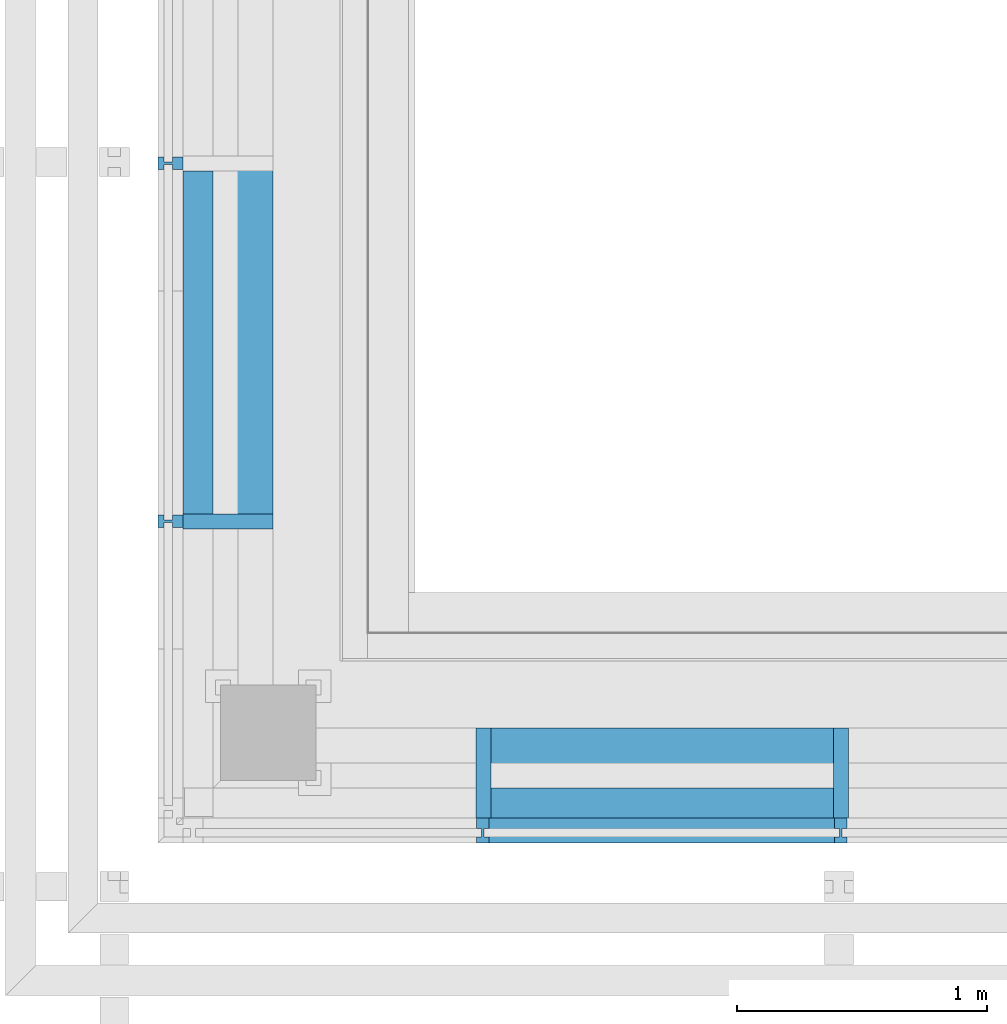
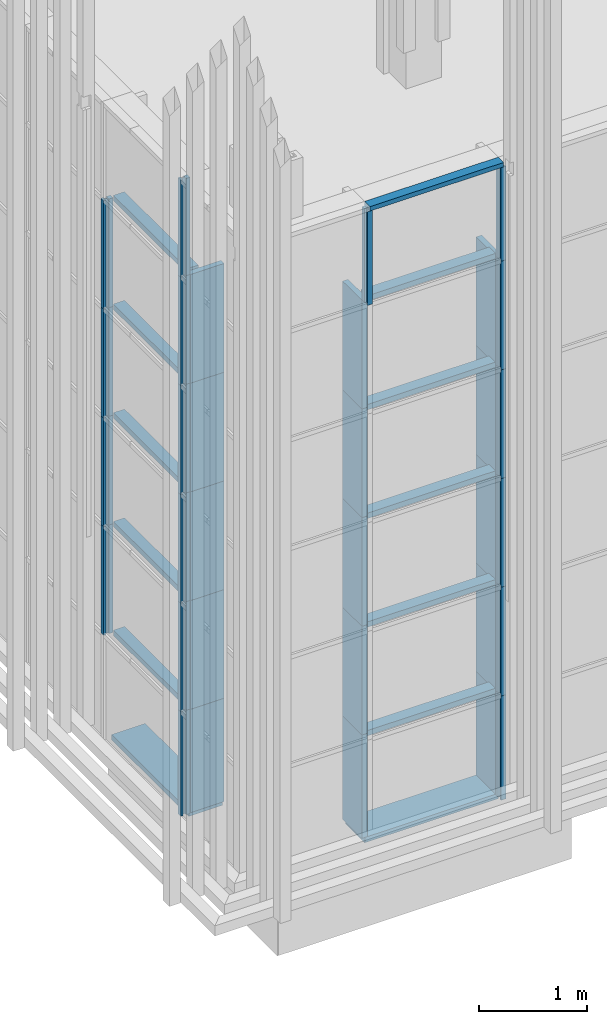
# One storey, part 3 of 260: 45 members, 2 elements without a shape of their own.
"""IFC2X3 building model written with IfcOpenShell, lengths in millimetres."""

from ifc_helpers import new_model, entity, si_unit, converted_unit, derived_unit, money_unit, direction, frame, origin_with_axes, place, context, subcontext, project, spatial, faceted_brep, source, transform, mapped, material, type_object, element, aggregate, save


model = new_model("IFC2X3")

# Units and contexts
model_context = context("Model", 3, precision=0.01, world=origin_with_axes(), true_north=direction((0.0, 1.0)))
body_context = subcontext(model_context, "Body", "Model", "MODEL_VIEW")
ifc_project = project(units=[si_unit("LENGTHUNIT", "METRE", prefix="MILLI"), si_unit("AREAUNIT", "SQUARE_METRE"), si_unit("VOLUMEUNIT", "CUBIC_METRE"), converted_unit("PLANEANGLEUNIT", "DEGREE", entity("IfcPlaneAngleMeasure", 0.0174532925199), si_unit("PLANEANGLEUNIT", "RADIAN"), dimensions=[0, 0, 0, 0, 0, 0, 0]), money_unit("EUR"), converted_unit("TIMEUNIT", "Year", entity("IfcTimeMeasure", 31556926.0), si_unit("TIMEUNIT", "SECOND"), dimensions=[0, 0, 1, 0, 0, 0, 0]), si_unit("MASSUNIT", "GRAM", prefix="KILO"), si_unit("THERMODYNAMICTEMPERATUREUNIT", "DEGREE_CELSIUS"), si_unit("LUMINOUSINTENSITYUNIT", "LUMEN"), si_unit("ENERGYUNIT", "JOULE", prefix="MEGA"), derived_unit("THERMALCONDUCTANCEUNIT", [(si_unit("POWERUNIT", "WATT"), 1), (si_unit("LENGTHUNIT", "METRE"), -1), (si_unit("THERMODYNAMICTEMPERATUREUNIT", "KELVIN"), -1)]), derived_unit("SPECIFICHEATCAPACITYUNIT", [(si_unit("ENERGYUNIT", "JOULE"), 1), (si_unit("MASSUNIT", "GRAM", prefix="KILO"), -1), (si_unit("THERMODYNAMICTEMPERATUREUNIT", "KELVIN"), -1)]), derived_unit("MASSDENSITYUNIT", [(si_unit("MASSUNIT", "GRAM", prefix="KILO"), 1), (si_unit("VOLUMEUNIT", "CUBIC_METRE"), -1)])], contexts=[model_context])

# Site, building, storey
site_placement = place(None, origin_with_axes())
site = spatial("IfcSite", under=ifc_project, at=site_placement, Name="Kolde pst 67a", CompositionType="ELEMENT")
building_placement = place(site_placement, origin_with_axes())
building = spatial("IfcBuilding", under=site, at=building_placement, Name="Riigigümnaasium", CompositionType="ELEMENT")
storey_placement = place(building_placement, origin_with_axes())
storey = spatial("IfcBuildingStorey", under=building, at=storey_placement, Name="1. korrus", CompositionType="ELEMENT", Elevation=0.0)

# Curtain wall, members
curtain_wall_type = type_object("IfcCurtainWallType", Name="Curtain Wall Type", PredefinedType="NOTDEFINED")
curtain_wall_1_placement = place(storey_placement, frame((47829.9854655, 8727.77020058, -0.000749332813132), z_axis=(0.0, 0.0, 1.0), x_axis=(1.0, 0.0, 0.0)))
curtain_wall_1 = element("IfcCurtainWall", 1, at=curtain_wall_1_placement, inside=storey, type_object=curtain_wall_type, Name="KLAASFASSAAD")
ifc_material_1 = material(Name="_METALL - alumiinium")
member_type_1 = type_object("IfcMemberType", Name="Mullion Frame 50 x 100", PredefinedType="MEMBER")
shared_shape_1 = source(origin_with_axes(), body_context, "Body", "Brep", [
    faceted_brep([(5.0, -16.5, 1230.00046362), (5.0, 16.5, 1230.00046362), (25.0, 16.5, 1230.00046362), (25.0, 40.0, 1230.00046362), (-25.0, 40.0, 1230.00046362), (-25.0, 16.5, 1230.00046362), (-5.0, 16.5, 1230.00046362), (-5.0, -16.5, 1230.00046362), (-25.0, -16.5, 1230.00046362), (-25.0, -60.0, 1230.00046362), (25.0, -60.0, 1230.00046362), (25.0, -16.5, 1230.00046362), (5.0, -16.5, 50.0), (5.0, 16.5, 50.0), (25.0, 16.5, 50.0), (25.0, 40.0, 50.0), (-25.0, 40.0, 50.0), (-25.0, 16.5, 50.0), (-5.0, 16.5, 50.0), (-5.0, -16.5, 50.0), (-25.0, -16.5, 50.0), (-25.0, -60.0, 50.0), (25.0, -60.0, 50.0), (25.0, -16.5, 50.0)], [[[0, 1, 2, 3, 4, 5, 6, 7, 8, 9, 10, 11]], [[0, 12, 13, 1]], [[1, 13, 14, 2]], [[14, 15, 3, 2]], [[4, 3, 15, 16]], [[17, 5, 4, 16]], [[5, 17, 18, 6]], [[7, 6, 18, 19]], [[8, 7, 19, 20]], [[8, 20, 21, 9]], [[10, 9, 21, 22]], [[11, 10, 22, 23]], [[11, 23, 12, 0]], [[13, 12, 23, 22, 21, 20, 19, 18, 17, 16, 15, 14]]]),
])
member_1_placement = place(curtain_wall_1_placement, frame((-21312.4150629, 15102.4731368, 0.000285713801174), z_axis=(0.0, 0.0, 1.0), x_axis=(0.999999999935, -1.14108152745e-05, 0.0)))
member_1 = element("IfcMember", 2, at=member_1_placement, type_object=member_type_1, material=ifc_material_1, Name="RF RAAM VERT-137", ObjectType="MEMBER", context=body_context, shape_type="MappedRepresentation", body=[
    mapped(shared_shape_1, transform((0.0, 0.0, 0.0), x_axis=(-1.0, 0.0, 0.0), y_axis=(0.0, -1.0, 0.0), z_axis=(0.0, 0.0, 1.0))),
])
member_2_placement = place(curtain_wall_1_placement, frame((-23999.9746346, 16347.2742109, 2.49889189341e-05), z_axis=(0.0, 8.29442620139e-09, 1.0), x_axis=(-7.64768489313e-06, -0.999999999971, 8.29442620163e-09)))
member_2 = element("IfcMember", 3, at=member_2_placement, type_object=member_type_1, material=ifc_material_1, Name="RF RAAM VERT-668", ObjectType="MEMBER", context=body_context, shape_type="MappedRepresentation", body=[
    mapped(shared_shape_1, transform((0.0, 0.0, 0.0), x_axis=(-1.0, 0.0, 8.29442620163e-09), y_axis=(0.0, -1.0, 0.0), z_axis=(8.29442620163e-09, 0.0, 1.0))),
])
shared_shape_2 = source(origin_with_axes(), body_context, "Body", "Brep", [
    faceted_brep([(5.0, -16.5, 1230.0), (5.0, 16.5, 1230.0), (25.0, 16.5, 1230.0), (25.0, 40.0, 1230.0), (-25.0, 40.0, 1230.0), (-25.0, 16.5, 1230.0), (-5.0, 16.5, 1230.0), (-5.0, -16.5, 1230.0), (-25.0, -16.5, 1230.0), (-25.0, -60.0, 1230.0), (25.0, -60.0, 1230.0), (25.0, -16.5, 1230.0), (5.0, -16.5, 0.0), (5.0, 16.5, 0.0), (25.0, 16.5, 0.0), (25.0, 40.0, 0.0), (-25.0, 40.0, 0.0), (-25.0, 16.5, 0.0), (-5.0, 16.5, 0.0), (-5.0, -16.5, 0.0), (-25.0, -16.5, 0.0), (-25.0, -60.0, 0.0), (25.0, -60.0, 0.0), (25.0, -16.5, 0.0)], [[[0, 1, 2, 3, 4, 5, 6, 7, 8, 9, 10, 11]], [[0, 12, 13, 1]], [[1, 13, 14, 2]], [[14, 15, 3, 2]], [[3, 15, 16, 4]], [[17, 5, 4, 16]], [[5, 17, 18, 6]], [[7, 6, 18, 19]], [[8, 7, 19, 20]], [[8, 20, 21, 9]], [[9, 21, 22, 10]], [[11, 10, 22, 23]], [[11, 23, 12, 0]], [[13, 12, 23, 22, 21, 20, 19, 18, 17, 16, 15, 14]]]),
])
member_3_placement = place(curtain_wall_1_placement, frame((-21312.4150629, 15102.4731368, 1230.00074933), z_axis=(0.0, 0.0, 1.0), x_axis=(0.999999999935, -1.14108152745e-05, 0.0)))
member_3 = element("IfcMember", 4, at=member_3_placement, type_object=member_type_1, material=ifc_material_1, Name="RF RAAM VERT-138", ObjectType="MEMBER", context=body_context, shape_type="MappedRepresentation", body=[
    mapped(shared_shape_2, transform((0.0, 0.0, 0.0), x_axis=(-1.0, 0.0, 0.0), y_axis=(0.0, -1.0, 0.0), z_axis=(0.0, 0.0, 1.0))),
])
member_4_placement = place(curtain_wall_1_placement, frame((-21312.4150629, 15102.4731368, 2460.00074933), z_axis=(0.0, 0.0, 1.0), x_axis=(0.999999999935, -1.14108152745e-05, 0.0)))
member_4 = element("IfcMember", 5, at=member_4_placement, type_object=member_type_1, material=ifc_material_1, Name="RF RAAM VERT-139", ObjectType="MEMBER", context=body_context, shape_type="MappedRepresentation", body=[
    mapped(shared_shape_2, transform((0.0, 0.0, 0.0), x_axis=(-1.0, 0.0, 0.0), y_axis=(0.0, -1.0, 0.0), z_axis=(0.0, 0.0, 1.0))),
])
member_5_placement = place(curtain_wall_1_placement, frame((-21312.4150629, 15102.4731368, 3690.00074933), z_axis=(0.0, 0.0, 1.0), x_axis=(0.999999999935, -1.14108152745e-05, 0.0)))
member_5 = element("IfcMember", 6, at=member_5_placement, type_object=member_type_1, material=ifc_material_1, Name="RF RAAM VERT-140", ObjectType="MEMBER", context=body_context, shape_type="MappedRepresentation", body=[
    mapped(shared_shape_2, transform((0.0, 0.0, 0.0), x_axis=(-1.0, 0.0, 0.0), y_axis=(0.0, -1.0, 0.0), z_axis=(0.0, 0.0, 1.0))),
])
member_6_placement = place(curtain_wall_1_placement, frame((-21312.4150629, 15102.4731368, 4920.00074933), z_axis=(0.0, 0.0, 1.0), x_axis=(0.999999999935, -1.14108152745e-05, 0.0)))
member_6 = element("IfcMember", 7, at=member_6_placement, type_object=member_type_1, material=ifc_material_1, Name="RF RAAM VERT-141", ObjectType="MEMBER", context=body_context, shape_type="MappedRepresentation", body=[
    mapped(shared_shape_2, transform((0.0, 0.0, 0.0), x_axis=(-1.0, 0.0, 0.0), y_axis=(0.0, -1.0, 0.0), z_axis=(0.0, 0.0, 1.0))),
])
member_7_placement = place(curtain_wall_1_placement, frame((-23999.9636984, 17777.274221, 4920.00074933), z_axis=(0.0, -1.01893070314e-08, 1.0), x_axis=(-7.6476848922e-06, -0.999999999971, -1.01893070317e-08)))
member_7 = element("IfcMember", 8, at=member_7_placement, type_object=member_type_1, material=ifc_material_1, Name="RF RAAM VERT-659", ObjectType="MEMBER", context=body_context, shape_type="MappedRepresentation", body=[
    mapped(shared_shape_2, transform((0.0, 0.0, 0.0), x_axis=(-1.0, 0.0, -1.01893070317e-08), y_axis=(0.0, -1.0, 0.0), z_axis=(-1.01893070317e-08, 0.0, 1.0))),
])
member_8_placement = place(curtain_wall_1_placement, frame((-23999.9636984, 17777.274221, 3690.00074933), z_axis=(0.0, 0.0, 1.0), x_axis=(-7.6476848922e-06, -0.999999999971, 0.0)))
member_8 = element("IfcMember", 9, at=member_8_placement, type_object=member_type_1, material=ifc_material_1, Name="RF RAAM VERT-660", ObjectType="MEMBER", context=body_context, shape_type="MappedRepresentation", body=[
    mapped(shared_shape_2, transform((0.0, 0.0, 0.0), x_axis=(-1.0, 0.0, 0.0), y_axis=(0.0, -1.0, 0.0), z_axis=(0.0, 0.0, 1.0))),
])
member_9_placement = place(curtain_wall_1_placement, frame((-23999.9636984, 17777.274221, 2460.00074933), z_axis=(0.0, 0.0, 1.0), x_axis=(-7.6476848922e-06, -0.999999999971, 0.0)))
member_9 = element("IfcMember", 10, at=member_9_placement, type_object=member_type_1, material=ifc_material_1, Name="RF RAAM VERT-661", ObjectType="MEMBER", context=body_context, shape_type="MappedRepresentation", body=[
    mapped(shared_shape_2, transform((0.0, 0.0, 0.0), x_axis=(-1.0, 0.0, 0.0), y_axis=(0.0, -1.0, 0.0), z_axis=(0.0, 0.0, 1.0))),
])
member_10_placement = place(curtain_wall_1_placement, frame((-23999.9636984, 17777.274221, 1230.00074933), z_axis=(0.0, 0.0, 1.0), x_axis=(-7.6476848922e-06, -0.999999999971, 0.0)))
member_10 = element("IfcMember", 11, at=member_10_placement, type_object=member_type_1, material=ifc_material_1, Name="RF RAAM VERT-662", ObjectType="MEMBER", context=body_context, shape_type="MappedRepresentation", body=[
    mapped(shared_shape_2, transform((0.0, 0.0, 0.0), x_axis=(-1.0, 0.0, 0.0), y_axis=(0.0, -1.0, 0.0), z_axis=(0.0, 0.0, 1.0))),
])
member_11_placement = place(curtain_wall_1_placement, frame((-23999.9746346, 16347.2742211, 4920.00074933), z_axis=(0.0, -8.29443108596e-09, 1.0), x_axis=(-7.64768489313e-06, -0.999999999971, -8.2944310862e-09)))
member_11 = element("IfcMember", 12, at=member_11_placement, type_object=member_type_1, material=ifc_material_1, Name="RF RAAM VERT-664", ObjectType="MEMBER", context=body_context, shape_type="MappedRepresentation", body=[
    mapped(shared_shape_2, transform((0.0, 0.0, 0.0), x_axis=(-1.0, 0.0, -8.2944310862e-09), y_axis=(0.0, -1.0, 0.0), z_axis=(-8.2944310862e-09, 0.0, 1.0))),
])
member_12_placement = place(curtain_wall_1_placement, frame((-23999.9746346, 16347.2742211, 3690.00074933), z_axis=(0.0, 0.0, 1.0), x_axis=(-7.64768489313e-06, -0.999999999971, 0.0)))
member_12 = element("IfcMember", 13, at=member_12_placement, type_object=member_type_1, material=ifc_material_1, Name="RF RAAM VERT-665", ObjectType="MEMBER", context=body_context, shape_type="MappedRepresentation", body=[
    mapped(shared_shape_2, transform((0.0, 0.0, 0.0), x_axis=(-1.0, 0.0, 0.0), y_axis=(0.0, -1.0, 0.0), z_axis=(0.0, 0.0, 1.0))),
])
member_13_placement = place(curtain_wall_1_placement, frame((-23999.9746346, 16347.2742211, 2460.00074933), z_axis=(0.0, 0.0, 1.0), x_axis=(-7.64768489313e-06, -0.999999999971, 0.0)))
member_13 = element("IfcMember", 14, at=member_13_placement, type_object=member_type_1, material=ifc_material_1, Name="RF RAAM VERT-666", ObjectType="MEMBER", context=body_context, shape_type="MappedRepresentation", body=[
    mapped(shared_shape_2, transform((0.0, 0.0, 0.0), x_axis=(-1.0, 0.0, 0.0), y_axis=(0.0, -1.0, 0.0), z_axis=(0.0, 0.0, 1.0))),
])
member_14_placement = place(curtain_wall_1_placement, frame((-23999.9746346, 16347.2742211, 1230.00074933), z_axis=(0.0, 0.0, 1.0), x_axis=(-7.64768489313e-06, -0.999999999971, 0.0)))
member_14 = element("IfcMember", 15, at=member_14_placement, type_object=member_type_1, material=ifc_material_1, Name="RF RAAM VERT-667", ObjectType="MEMBER", context=body_context, shape_type="MappedRepresentation", body=[
    mapped(shared_shape_2, transform((0.0, 0.0, 0.0), x_axis=(-1.0, 0.0, 0.0), y_axis=(0.0, -1.0, 0.0), z_axis=(0.0, 0.0, 1.0))),
])
member_type_2 = type_object("IfcMemberType", Name="Boundary Frame 50 x 100", PredefinedType="MEMBER")
shared_shape_3 = source(origin_with_axes(), body_context, "Body", "Brep", [
    faceted_brep([(-30.0, -16.5, 1430.0), (-50.0, -16.5, 1430.0), (-50.0, -60.0, 1430.0), (0.0, -60.0, 1430.0), (0.0, 40.0, 1430.0), (-50.0, 40.0, 1430.0), (-50.0, 16.5, 1430.0), (-30.0, 16.5, 1430.0), (-30.0, -16.5, 0.0), (-50.0, -16.5, 0.0), (-50.0, -60.0, 0.0), (0.0, -60.0, 0.0), (0.0, 40.0, 0.0), (-50.0, 40.0, 0.0), (-50.0, 16.5, 0.0), (-30.0, 16.5, 0.0)], [[[0, 1, 2, 3, 4, 5, 6, 7]], [[0, 8, 9, 1]], [[9, 10, 2, 1]], [[10, 11, 3, 2]], [[11, 12, 4, 3]], [[12, 13, 5, 4]], [[6, 5, 13, 14]], [[14, 15, 7, 6]], [[7, 15, 8, 0]], [[8, 15, 14, 13, 12, 11, 10, 9]]]),
])
member_15_placement = place(curtain_wall_1_placement, frame((-22742.4150628, 15102.4894543, 7259.99992735), z_axis=(0.999999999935, -1.14108152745e-05, 0.0), x_axis=(0.0, 0.0, -1.0)))
member_15 = element("IfcMember", 16, at=member_15_placement, type_object=member_type_2, material=ifc_material_1, Name="RF RAAM SERV-613", ObjectType="MEMBER", context=body_context, shape_type="MappedRepresentation", body=[
    mapped(shared_shape_3, transform((0.0, 0.0, 0.0), x_axis=(-1.0, 0.0, 0.0), y_axis=(0.0, -1.0, 0.0), z_axis=(0.0, 0.0, 1.0))),
])
shared_shape_4 = source(origin_with_axes(), body_context, "Body", "Brep", [
    faceted_brep([(5.0, -16.5, 1099.99900713), (5.0, 16.5, 1099.99900713), (25.0, 16.5, 1099.99900713), (25.0, 40.0, 1099.99900713), (-25.0, 40.0, 1099.99900713), (-25.0, 16.5, 1099.99900713), (-5.0, 16.5, 1099.99900713), (-5.0, -16.5, 1099.99900713), (-25.0, -16.5, 1099.99900713), (-25.0, -60.0, 1099.99900713), (25.0, -60.0, 1099.99900713), (25.0, -16.5, 1099.99900713), (5.0, -16.5, -4.55870452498e-07), (5.0, 16.5, -4.55870452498e-07), (25.0, 16.5, -4.55870452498e-07), (25.0, 40.0, -4.55870452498e-07), (-25.0, 40.0, -4.55870452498e-07), (-25.0, 16.5, -4.55870452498e-07), (-5.0, 16.5, -4.55870452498e-07), (-5.0, -16.5, -4.55870452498e-07), (-25.0, -16.5, -4.55870452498e-07), (-25.0, -60.0, -4.55870452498e-07), (25.0, -60.0, -4.55870452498e-07), (25.0, -16.5, -4.55870452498e-07)], [[[0, 1, 2, 3, 4, 5, 6, 7, 8, 9, 10, 11]], [[0, 12, 13, 1]], [[1, 13, 14, 2]], [[14, 15, 3, 2]], [[3, 15, 16, 4]], [[17, 5, 4, 16]], [[5, 17, 18, 6]], [[7, 6, 18, 19]], [[8, 7, 19, 20]], [[8, 20, 21, 9]], [[9, 21, 22, 10]], [[11, 10, 22, 23]], [[11, 23, 12, 0]], [[13, 12, 23, 22, 21, 20, 19, 18, 17, 16, 15, 14]]]),
])
member_16_placement = place(curtain_wall_1_placement, frame((-23999.9746346, 16347.2742109, 6150.00074933), z_axis=(0.0, 0.0, 1.0), x_axis=(-7.64768489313e-06, -0.999999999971, 0.0)))
member_16 = element("IfcMember", 17, at=member_16_placement, type_object=member_type_1, material=ifc_material_1, Name="RF RAAM VERT-109", ObjectType="MEMBER", context=body_context, shape_type="MappedRepresentation", body=[
    mapped(shared_shape_4, transform((0.0, 0.0, 0.0), x_axis=(-1.0, 0.0, 0.0), y_axis=(0.0, -1.0, 0.0), z_axis=(0.0, 0.0, 1.0))),
])
shared_shape_5 = source(origin_with_axes(), body_context, "Body", "Brep", [
    faceted_brep([(5.0, -16.5, 1059.99917802), (5.0, 16.5, 1059.99917802), (25.0, 16.5, 1059.99917802), (25.0, 40.0, 1059.99917802), (-25.0, 40.0, 1059.99917802), (-25.0, 16.5, 1059.99917802), (-5.0, 16.5, 1059.99917802), (-5.0, -16.5, 1059.99917802), (-25.0, -16.5, 1059.99917802), (-25.0, -60.0, 1059.99917802), (25.0, -60.0, 1059.99917802), (25.0, -16.5, 1059.99917802), (5.0, -16.5, 0.0), (5.0, 16.5, 0.0), (25.0, 16.5, 0.0), (25.0, 40.0, 0.0), (-25.0, 40.0, 0.0), (-25.0, 16.5, 0.0), (-5.0, 16.5, 0.0), (-5.0, -16.5, 0.0), (-25.0, -16.5, 0.0), (-25.0, -60.0, 0.0), (25.0, -60.0, 0.0), (25.0, -16.5, 0.0)], [[[0, 1, 2, 3, 4, 5, 6, 7, 8, 9, 10, 11]], [[0, 12, 13, 1]], [[1, 13, 14, 2]], [[14, 15, 3, 2]], [[3, 15, 16, 4]], [[17, 5, 4, 16]], [[5, 17, 18, 6]], [[7, 6, 18, 19]], [[8, 7, 19, 20]], [[8, 20, 21, 9]], [[9, 21, 22, 10]], [[11, 10, 22, 23]], [[11, 23, 12, 0]], [[13, 12, 23, 22, 21, 20, 19, 18, 17, 16, 15, 14]]]),
])
member_17_placement = place(curtain_wall_1_placement, frame((-21312.4150629, 15102.4731368, 6150.00074933), z_axis=(0.0, 0.0, 1.0), x_axis=(0.999999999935, -1.14108152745e-05, 0.0)))
member_17 = element("IfcMember", 18, at=member_17_placement, type_object=member_type_1, material=ifc_material_1, Name="RF RAAM VERT-088", ObjectType="MEMBER", context=body_context, shape_type="MappedRepresentation", body=[
    mapped(shared_shape_5, transform((0.0, 0.0, 0.0), x_axis=(-1.0, 0.0, 0.0), y_axis=(0.0, -1.0, 0.0), z_axis=(0.0, 0.0, 1.0))),
])
member_18_placement = place(curtain_wall_1_placement, frame((-22742.4150628, 15102.4894543, 6150.00074933), z_axis=(0.0, 0.0, 1.0), x_axis=(0.999999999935, -1.14108152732e-05, 0.0)))
member_18 = element("IfcMember", 19, at=member_18_placement, type_object=member_type_1, material=ifc_material_1, Name="RF RAAM VERT-089", ObjectType="MEMBER", context=body_context, shape_type="MappedRepresentation", body=[
    mapped(shared_shape_5, transform((0.0, 0.0, 0.0), x_axis=(-1.0, 0.0, 0.0), y_axis=(0.0, -1.0, 0.0), z_axis=(0.0, 0.0, 1.0))),
])
aggregate(curtain_wall_1, [member_1, member_3, member_4, member_5, member_6, member_7, member_8, member_9, member_10, member_11, member_12, member_13, member_14, member_2, member_17, member_18, member_16, member_15])

curtain_wall_2_placement = place(storey_placement, frame((23890.0026791, 27220.1832522, -0.000253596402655), z_axis=(0.0, 0.0, 1.0), x_axis=(1.0, 0.0, 0.0)))
curtain_wall_2 = element("IfcCurtainWall", 20, at=curtain_wall_2_placement, inside=storey, type_object=curtain_wall_type, Name="Klaasfassaadi puitkarkass")
ifc_material_2 = material(Name="_KANDETARIND - liimpuit vastavalt EK osale")
member_type_3 = type_object("IfcMemberType", Name="Transom Frame 60 x 120", PredefinedType="MEMBER")
shared_shape_6 = source(origin_with_axes(), body_context, "Body", "Brep", [
    faceted_brep([(-30.0, 0.0, 30.0), (-30.0, -120.0, 30.0), (-30.0, -120.0, 1400.0), (-30.0, 0.0, 1400.0), (30.0, 0.0, 30.0), (30.0, -120.0, 30.0), (30.0, -120.0, 1400.0), (30.0, 0.0, 1400.0)], [[[0, 1, 2, 3]], [[1, 0, 4, 5]], [[1, 5, 6, 2]], [[2, 6, 7, 3]], [[4, 0, 3, 7]], [[5, 4, 7, 6]]]),
])
member_19_placement = place(curtain_wall_2_placement, frame((-1.09950875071e-05, -2145.0, 1230.0002536), z_axis=(5.12591492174e-09, 1.0, 0.0), x_axis=(0.0, 0.0, 1.0)))
member_19 = element("IfcMember", 21, at=member_19_placement, type_object=member_type_3, material=ifc_material_2, Name="RF RAAM HOR-648", ObjectType="MEMBER", context=body_context, shape_type="MappedRepresentation", body=[
    mapped(shared_shape_6, transform((0.0, 0.0, 0.0), x_axis=(-1.0, 0.0, 0.0), y_axis=(0.0, -1.0, -5.12591479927e-09), z_axis=(0.0, -5.12591479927e-09, 1.0))),
])
member_20_placement = place(curtain_wall_2_placement, frame((-1.09950875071e-05, -2145.0, 2460.0002536), z_axis=(5.12591492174e-09, 1.0, 0.0), x_axis=(0.0, 0.0, 1.0)))
member_20 = element("IfcMember", 22, at=member_20_placement, type_object=member_type_3, material=ifc_material_2, Name="RF RAAM HOR-648", ObjectType="MEMBER", context=body_context, shape_type="MappedRepresentation", body=[
    mapped(shared_shape_6, transform((0.0, 0.0, 0.0), x_axis=(-1.0, 0.0, 0.0), y_axis=(0.0, -1.0, -5.12591479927e-09), z_axis=(0.0, -5.12591479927e-09, 1.0))),
])
member_21_placement = place(curtain_wall_2_placement, frame((-1.09950875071e-05, -2145.0, 3690.0002536), z_axis=(5.12591492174e-09, 1.0, 0.0), x_axis=(0.0, 0.0, 1.0)))
member_21 = element("IfcMember", 23, at=member_21_placement, type_object=member_type_3, material=ifc_material_2, Name="RF RAAM HOR-648", ObjectType="MEMBER", context=body_context, shape_type="MappedRepresentation", body=[
    mapped(shared_shape_6, transform((0.0, 0.0, 0.0), x_axis=(-1.0, 0.0, 0.0), y_axis=(0.0, -1.0, -5.12591479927e-09), z_axis=(0.0, -5.12591479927e-09, 1.0))),
])
member_22_placement = place(curtain_wall_2_placement, frame((-1.09950875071e-05, -2145.0, 4920.0002536), z_axis=(5.12591492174e-09, 1.0, 0.0), x_axis=(0.0, 0.0, 1.0)))
member_22 = element("IfcMember", 24, at=member_22_placement, type_object=member_type_3, material=ifc_material_2, Name="RF RAAM HOR-648", ObjectType="MEMBER", context=body_context, shape_type="MappedRepresentation", body=[
    mapped(shared_shape_6, transform((0.0, 0.0, 0.0), x_axis=(-1.0, 0.0, 0.0), y_axis=(0.0, -1.0, -5.12591479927e-09), z_axis=(0.0, -5.12591479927e-09, 1.0))),
])
member_23_placement = place(curtain_wall_2_placement, frame((-1.09950875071e-05, -2145.0, 6150.0002536), z_axis=(5.12591492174e-09, 1.0, 0.0), x_axis=(0.0, 0.0, 1.0)))
member_23 = element("IfcMember", 25, at=member_23_placement, type_object=member_type_3, material=ifc_material_2, Name="RF RAAM HOR-648", ObjectType="MEMBER", context=body_context, shape_type="MappedRepresentation", body=[
    mapped(shared_shape_6, transform((0.0, 0.0, 0.0), x_axis=(-1.0, 0.0, 0.0), y_axis=(0.0, -1.0, -5.12591479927e-09), z_axis=(0.0, -5.12591479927e-09, 1.0))),
])
member_24_placement = place(curtain_wall_2_placement, frame((2629.37705572, -3330.168447, 1230.0002536), z_axis=(-1.0, 0.0, 0.0), x_axis=(0.0, 0.0, 1.0)))
member_24 = element("IfcMember", 26, at=member_24_placement, type_object=member_type_3, material=ifc_material_2, Name="RF RAAM HOR-648", ObjectType="MEMBER", context=body_context, shape_type="MappedRepresentation", body=[
    mapped(shared_shape_6, transform((0.0, 0.0, 0.0), x_axis=(-1.0, 0.0, 0.0), y_axis=(0.0, -1.0, 0.0), z_axis=(0.0, 0.0, 1.0))),
])
member_25_placement = place(curtain_wall_2_placement, frame((2629.37705572, -3330.168447, 2460.0002536), z_axis=(-1.0, 0.0, 0.0), x_axis=(0.0, 0.0, 1.0)))
member_25 = element("IfcMember", 27, at=member_25_placement, type_object=member_type_3, material=ifc_material_2, Name="RF RAAM HOR-648", ObjectType="MEMBER", context=body_context, shape_type="MappedRepresentation", body=[
    mapped(shared_shape_6, transform((0.0, 0.0, 0.0), x_axis=(-1.0, 0.0, 0.0), y_axis=(0.0, -1.0, 0.0), z_axis=(0.0, 0.0, 1.0))),
])
member_26_placement = place(curtain_wall_2_placement, frame((2629.37705572, -3330.168447, 3690.0002536), z_axis=(-1.0, 0.0, 0.0), x_axis=(0.0, 0.0, 1.0)))
member_26 = element("IfcMember", 28, at=member_26_placement, type_object=member_type_3, material=ifc_material_2, Name="RF RAAM HOR-648", ObjectType="MEMBER", context=body_context, shape_type="MappedRepresentation", body=[
    mapped(shared_shape_6, transform((0.0, 0.0, 0.0), x_axis=(-1.0, 0.0, 0.0), y_axis=(0.0, -1.0, 0.0), z_axis=(0.0, 0.0, 1.0))),
])
member_27_placement = place(curtain_wall_2_placement, frame((2629.37705572, -3330.168447, 4920.0002536), z_axis=(-1.0, 0.0, 0.0), x_axis=(0.0, 0.0, 1.0)))
member_27 = element("IfcMember", 29, at=member_27_placement, type_object=member_type_3, material=ifc_material_2, Name="RF RAAM HOR-648", ObjectType="MEMBER", context=body_context, shape_type="MappedRepresentation", body=[
    mapped(shared_shape_6, transform((0.0, 0.0, 0.0), x_axis=(-1.0, 0.0, 0.0), y_axis=(0.0, -1.0, 0.0), z_axis=(0.0, 0.0, 1.0))),
])
member_28_placement = place(curtain_wall_2_placement, frame((2629.37705572, -3330.168447, 6150.0002536), z_axis=(-1.0, 0.0, 0.0), x_axis=(0.0, 0.0, 1.0)))
member_28 = element("IfcMember", 30, at=member_28_placement, type_object=member_type_3, material=ifc_material_2, Name="RF RAAM HOR-648", ObjectType="MEMBER", context=body_context, shape_type="MappedRepresentation", body=[
    mapped(shared_shape_6, transform((0.0, 0.0, 0.0), x_axis=(-1.0, 0.0, 0.0), y_axis=(0.0, -1.0, 0.0), z_axis=(0.0, 0.0, 1.0))),
])
member_type_4 = type_object("IfcMemberType", Name="Mullion Frame 60 x 360", PredefinedType="MEMBER")
shared_shape_7 = source(origin_with_axes(), body_context, "Body", "Brep", [
    faceted_brep([(-30.0, 0.0, 60.0), (-30.0, -360.0, 60.0), (-30.0, -360.0, 1230.0002536), (-30.0, 0.0, 1230.0002536), (30.0, 0.0, 60.0), (30.0, -360.0, 60.0), (30.0, -360.0, 1230.0002536), (30.0, 0.0, 1230.0002536)], [[[0, 1, 2, 3]], [[1, 0, 4, 5]], [[1, 5, 6, 2]], [[2, 6, 7, 3]], [[4, 0, 3, 7]], [[5, 4, 7, 6]]]),
])
member_29_placement = place(curtain_wall_2_placement, frame((-1.09950875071e-05, -2145.0, 0.0), z_axis=(0.0, 0.0, 1.0), x_axis=(-5.12591503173e-09, -1.0, 0.0)))
member_29 = element("IfcMember", 31, at=member_29_placement, type_object=member_type_4, material=ifc_material_2, Name="RF RAAM VERT-837", ObjectType="MEMBER", context=body_context, shape_type="MappedRepresentation", body=[
    mapped(shared_shape_7, transform((0.0, 0.0, 0.0), x_axis=(-1.0, 0.0, 0.0), y_axis=(0.0, -1.0, 0.0), z_axis=(0.0, 0.0, 1.0))),
])
member_30_placement = place(curtain_wall_2_placement, frame((2629.37705572, -3330.168447, 0.000124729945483), z_axis=(0.0, 0.0, 1.0), x_axis=(1.0, 0.0, 0.0)))
member_30 = element("IfcMember", 32, at=member_30_placement, type_object=member_type_4, material=ifc_material_2, Name="RF RAAM VERT-837", ObjectType="MEMBER", context=body_context, shape_type="MappedRepresentation", body=[
    mapped(shared_shape_7, transform((0.0, 0.0, 0.0), x_axis=(-1.0, 0.0, 0.0), y_axis=(0.0, -1.0, 0.0), z_axis=(0.0, 0.0, 1.0))),
])
member_31_placement = place(curtain_wall_2_placement, frame((1199.37705572, -3330.16844713, 0.000124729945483), z_axis=(0.0, 0.0, 1.0), x_axis=(1.0, 0.0, 0.0)))
member_31 = element("IfcMember", 33, at=member_31_placement, type_object=member_type_4, material=ifc_material_2, Name="RF RAAM VERT-837", ObjectType="MEMBER", context=body_context, shape_type="MappedRepresentation", body=[
    mapped(shared_shape_7, transform((0.0, 0.0, 0.0), x_axis=(-1.0, 0.0, 0.0), y_axis=(0.0, -1.0, 0.0), z_axis=(0.0, 0.0, 1.0))),
])
shared_shape_8 = source(origin_with_axes(), body_context, "Body", "Brep", [
    faceted_brep([(-30.0, -360.0, 0.0), (-30.0, -360.0, 1230.0), (-30.0, 0.0, 1230.0), (-30.0, 0.0, 0.0), (30.0, -360.0, 0.0), (30.0, -360.0, 1230.0), (30.0, 0.0, 1230.0), (30.0, 0.0, 0.0)], [[[0, 1, 2, 3]], [[4, 5, 1, 0]], [[1, 5, 6, 2]], [[3, 2, 6, 7]], [[0, 3, 7, 4]], [[7, 6, 5, 4]]]),
])
member_32_placement = place(curtain_wall_2_placement, frame((-1.09950875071e-05, -2145.0, 1230.0002536), z_axis=(0.0, 0.0, 1.0), x_axis=(-5.12591503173e-09, -1.0, 0.0)))
member_32 = element("IfcMember", 34, at=member_32_placement, type_object=member_type_4, material=ifc_material_2, Name="RF RAAM VERT-837", ObjectType="MEMBER", context=body_context, shape_type="MappedRepresentation", body=[
    mapped(shared_shape_8, transform((0.0, 0.0, 0.0), x_axis=(-1.0, 0.0, 0.0), y_axis=(0.0, -1.0, 0.0), z_axis=(0.0, 0.0, 1.0))),
])
member_33_placement = place(curtain_wall_2_placement, frame((-1.09950875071e-05, -2145.0, 2460.0002536), z_axis=(0.0, 0.0, 1.0), x_axis=(-5.12591503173e-09, -1.0, 0.0)))
member_33 = element("IfcMember", 35, at=member_33_placement, type_object=member_type_4, material=ifc_material_2, Name="RF RAAM VERT-837", ObjectType="MEMBER", context=body_context, shape_type="MappedRepresentation", body=[
    mapped(shared_shape_8, transform((0.0, 0.0, 0.0), x_axis=(-1.0, 0.0, 0.0), y_axis=(0.0, -1.0, 0.0), z_axis=(0.0, 0.0, 1.0))),
])
member_34_placement = place(curtain_wall_2_placement, frame((-1.09950875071e-05, -2145.0, 3690.0002536), z_axis=(0.0, 0.0, 1.0), x_axis=(-5.12591503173e-09, -1.0, 0.0)))
member_34 = element("IfcMember", 36, at=member_34_placement, type_object=member_type_4, material=ifc_material_2, Name="RF RAAM VERT-837", ObjectType="MEMBER", context=body_context, shape_type="MappedRepresentation", body=[
    mapped(shared_shape_8, transform((0.0, 0.0, 0.0), x_axis=(-1.0, 0.0, 0.0), y_axis=(0.0, -1.0, 0.0), z_axis=(0.0, 0.0, 1.0))),
])
member_35_placement = place(curtain_wall_2_placement, frame((-1.09950875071e-05, -2145.0, 4920.0002536), z_axis=(0.0, 0.0, 1.0), x_axis=(-5.12591503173e-09, -1.0, 0.0)))
member_35 = element("IfcMember", 37, at=member_35_placement, type_object=member_type_4, material=ifc_material_2, Name="RF RAAM VERT-837", ObjectType="MEMBER", context=body_context, shape_type="MappedRepresentation", body=[
    mapped(shared_shape_8, transform((0.0, 0.0, 0.0), x_axis=(-1.0, 0.0, 0.0), y_axis=(0.0, -1.0, 0.0), z_axis=(0.0, 0.0, 1.0))),
])
member_36_placement = place(curtain_wall_2_placement, frame((2629.37705572, -3330.168447, 1230.0002536), z_axis=(0.0, 0.0, 1.0), x_axis=(1.0, 0.0, 0.0)))
member_36 = element("IfcMember", 38, at=member_36_placement, type_object=member_type_4, material=ifc_material_2, Name="RF RAAM VERT-837", ObjectType="MEMBER", context=body_context, shape_type="MappedRepresentation", body=[
    mapped(shared_shape_8, transform((0.0, 0.0, 0.0), x_axis=(-1.0, 0.0, 0.0), y_axis=(0.0, -1.0, 0.0), z_axis=(0.0, 0.0, 1.0))),
])
member_37_placement = place(curtain_wall_2_placement, frame((2629.37705572, -3330.168447, 2460.0002536), z_axis=(0.0, 0.0, 1.0), x_axis=(1.0, 0.0, 0.0)))
member_37 = element("IfcMember", 39, at=member_37_placement, type_object=member_type_4, material=ifc_material_2, Name="RF RAAM VERT-837", ObjectType="MEMBER", context=body_context, shape_type="MappedRepresentation", body=[
    mapped(shared_shape_8, transform((0.0, 0.0, 0.0), x_axis=(-1.0, 0.0, 0.0), y_axis=(0.0, -1.0, 0.0), z_axis=(0.0, 0.0, 1.0))),
])
member_38_placement = place(curtain_wall_2_placement, frame((2629.37705572, -3330.168447, 3690.0002536), z_axis=(0.0, 0.0, 1.0), x_axis=(1.0, 0.0, 0.0)))
member_38 = element("IfcMember", 40, at=member_38_placement, type_object=member_type_4, material=ifc_material_2, Name="RF RAAM VERT-837", ObjectType="MEMBER", context=body_context, shape_type="MappedRepresentation", body=[
    mapped(shared_shape_8, transform((0.0, 0.0, 0.0), x_axis=(-1.0, 0.0, 0.0), y_axis=(0.0, -1.0, 0.0), z_axis=(0.0, 0.0, 1.0))),
])
member_39_placement = place(curtain_wall_2_placement, frame((2629.37705572, -3330.168447, 4920.0002536), z_axis=(0.0, 0.0, 1.0), x_axis=(1.0, 0.0, 0.0)))
member_39 = element("IfcMember", 41, at=member_39_placement, type_object=member_type_4, material=ifc_material_2, Name="RF RAAM VERT-837", ObjectType="MEMBER", context=body_context, shape_type="MappedRepresentation", body=[
    mapped(shared_shape_8, transform((0.0, 0.0, 0.0), x_axis=(-1.0, 0.0, 0.0), y_axis=(0.0, -1.0, 0.0), z_axis=(0.0, 0.0, 1.0))),
])
member_40_placement = place(curtain_wall_2_placement, frame((1199.37705572, -3330.16844713, 1230.0002536), z_axis=(0.0, 0.0, 1.0), x_axis=(1.0, 0.0, 0.0)))
member_40 = element("IfcMember", 42, at=member_40_placement, type_object=member_type_4, material=ifc_material_2, Name="RF RAAM VERT-837", ObjectType="MEMBER", context=body_context, shape_type="MappedRepresentation", body=[
    mapped(shared_shape_8, transform((0.0, 0.0, 0.0), x_axis=(-1.0, 0.0, 0.0), y_axis=(0.0, -1.0, 0.0), z_axis=(0.0, 0.0, 1.0))),
])
member_41_placement = place(curtain_wall_2_placement, frame((1199.37705572, -3330.16844713, 2460.0002536), z_axis=(0.0, 0.0, 1.0), x_axis=(1.0, 0.0, 0.0)))
member_41 = element("IfcMember", 43, at=member_41_placement, type_object=member_type_4, material=ifc_material_2, Name="RF RAAM VERT-837", ObjectType="MEMBER", context=body_context, shape_type="MappedRepresentation", body=[
    mapped(shared_shape_8, transform((0.0, 0.0, 0.0), x_axis=(-1.0, 0.0, 0.0), y_axis=(0.0, -1.0, 0.0), z_axis=(0.0, 0.0, 1.0))),
])
member_42_placement = place(curtain_wall_2_placement, frame((1199.37705572, -3330.16844713, 3690.0002536), z_axis=(0.0, 0.0, 1.0), x_axis=(1.0, 0.0, 0.0)))
member_42 = element("IfcMember", 44, at=member_42_placement, type_object=member_type_4, material=ifc_material_2, Name="RF RAAM VERT-837", ObjectType="MEMBER", context=body_context, shape_type="MappedRepresentation", body=[
    mapped(shared_shape_8, transform((0.0, 0.0, 0.0), x_axis=(-1.0, 0.0, 0.0), y_axis=(0.0, -1.0, 0.0), z_axis=(0.0, 0.0, 1.0))),
])
member_43_placement = place(curtain_wall_2_placement, frame((1199.37705572, -3330.16844713, 4920.0002536), z_axis=(0.0, 0.0, 1.0), x_axis=(1.0, 0.0, 0.0)))
member_43 = element("IfcMember", 45, at=member_43_placement, type_object=member_type_4, material=ifc_material_2, Name="RF RAAM VERT-837", ObjectType="MEMBER", context=body_context, shape_type="MappedRepresentation", body=[
    mapped(shared_shape_8, transform((0.0, 0.0, 0.0), x_axis=(-1.0, 0.0, 0.0), y_axis=(0.0, -1.0, 0.0), z_axis=(0.0, 0.0, 1.0))),
])
member_type_5 = type_object("IfcMemberType", Name="Boundary Frame 60 x 360", PredefinedType="MEMBER")
shared_shape_9 = source(origin_with_axes(), body_context, "Body", "Brep", [
    faceted_brep([(-60.0, -360.0, 0.0), (-60.0, -360.0, 1430.0), (-60.0, 0.0, 1430.0), (-60.0, 0.0, 0.0), (0.0, -360.0, 0.0), (0.0, -360.0, 1430.0), (0.0, 0.0, 1430.0), (0.0, 0.0, 0.0)], [[[0, 1, 2, 3]], [[4, 5, 1, 0]], [[1, 5, 6, 2]], [[3, 2, 6, 7]], [[0, 3, 7, 4]], [[7, 6, 5, 4]]]),
])
member_44_placement = place(curtain_wall_2_placement, frame((-1.09950875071e-05, -2145.0, 0.0), z_axis=(5.12591492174e-09, 1.0, 0.0), x_axis=(0.0, 0.0, 1.0)))
member_44 = element("IfcMember", 46, at=member_44_placement, type_object=member_type_5, material=ifc_material_2, Name="RF RAAM SERV-710", ObjectType="MEMBER", context=body_context, shape_type="MappedRepresentation", body=[
    mapped(shared_shape_9, transform((0.0, 0.0, 0.0), x_axis=(-1.0, 0.0, 0.0), y_axis=(0.0, -1.0, -5.12591479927e-09), z_axis=(0.0, -5.12591479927e-09, 1.0))),
])
member_45_placement = place(curtain_wall_2_placement, frame((2629.37705572, -3330.168447, 0.000124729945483), z_axis=(-1.0, 0.0, 0.0), x_axis=(0.0, 0.0, 1.0)))
member_45 = element("IfcMember", 47, at=member_45_placement, type_object=member_type_5, material=ifc_material_2, Name="RF RAAM SERV-677", ObjectType="MEMBER", context=body_context, shape_type="MappedRepresentation", body=[
    mapped(shared_shape_9, transform((0.0, 0.0, 0.0), x_axis=(-1.0, 0.0, 0.0), y_axis=(0.0, -1.0, 0.0), z_axis=(0.0, 0.0, 1.0))),
])
aggregate(curtain_wall_2, [member_29, member_32, member_33, member_34, member_35, member_44, member_19, member_20, member_21, member_22, member_23, member_30, member_36, member_37, member_38, member_39, member_31, member_40, member_41, member_42, member_43, member_45, member_24, member_25, member_26, member_27, member_28])

save(model, "model.ifc")
